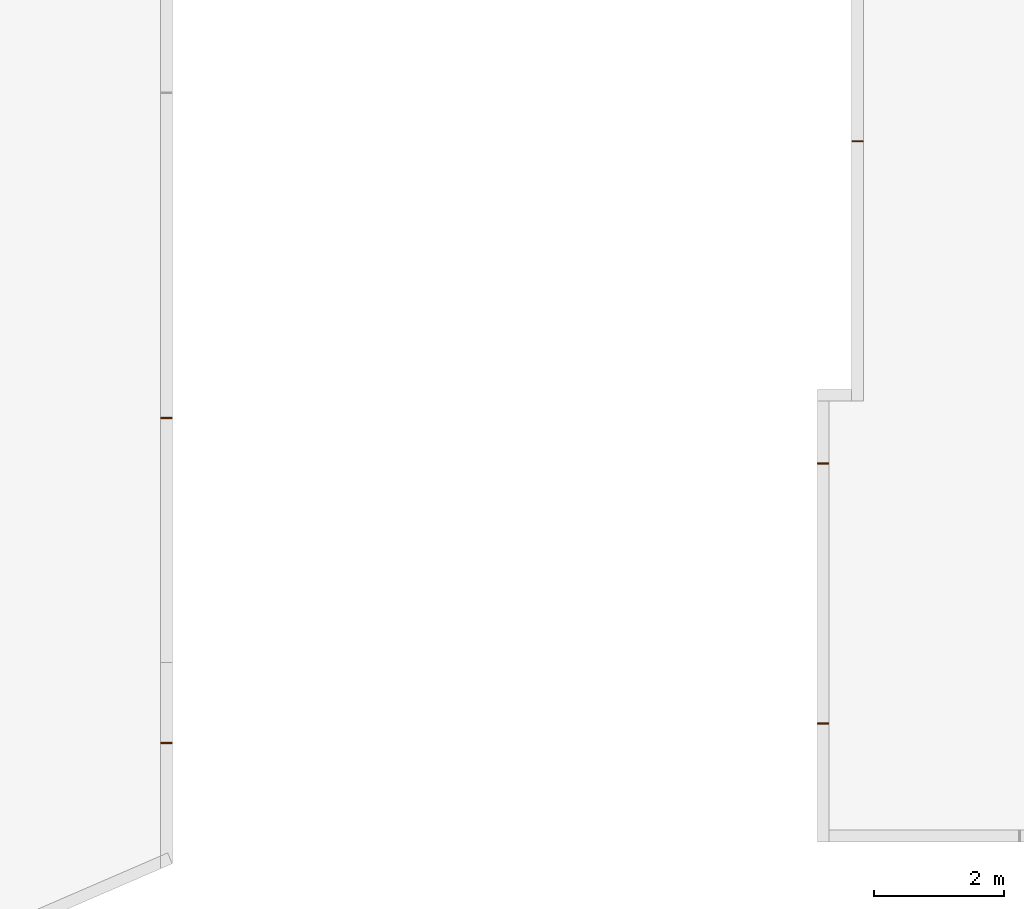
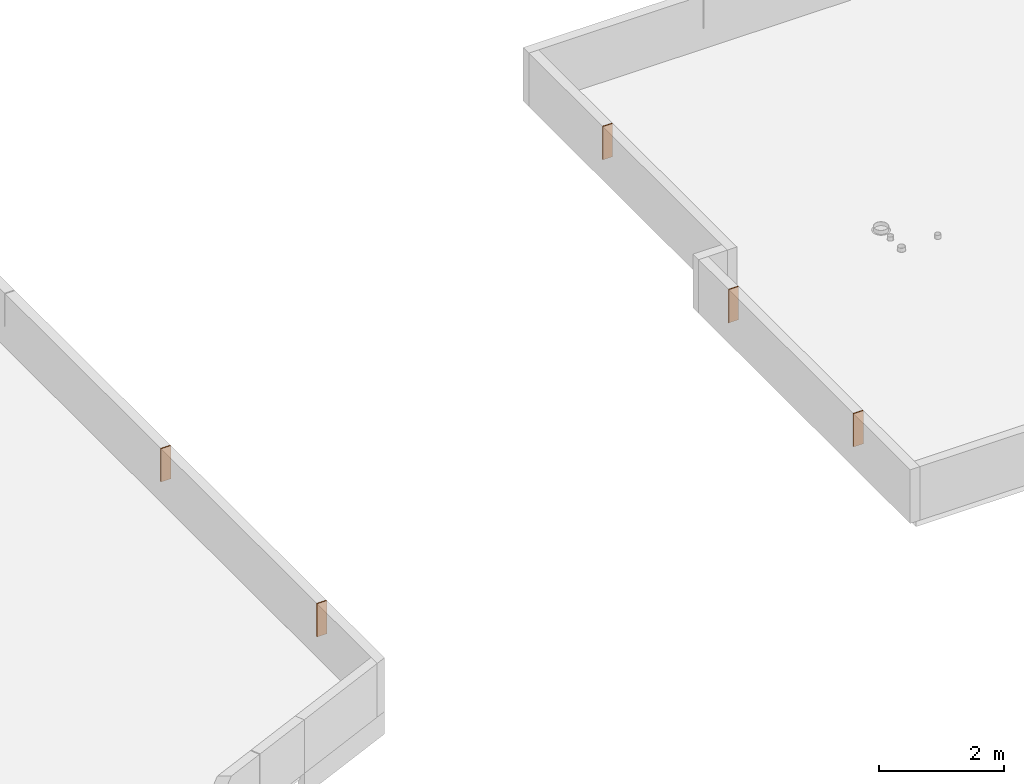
# One storey, part 5 of 12: 5 proxies.
"""IFC2X3 building model written with IfcOpenShell, lengths in centimetres."""

from ifc_helpers import new_model, entity, si_unit, converted_unit, derived_unit, direction, frame, frame_2d, origin, place, context, subcontext, project, spatial, rectangle, extrude, source, transform, mapped, material, type_object, type_shapes, element, save


model = new_model("IFC2X3")

# Units and contexts
model_context = context("Model", 3, precision=0.001, world=origin(), true_north=direction((6.12303176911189e-17, 1.0)))
body_context = subcontext(model_context, "Body", "Model", "MODEL_VIEW")
ifc_project = project(units=[si_unit("LENGTHUNIT", "METRE", prefix="CENTI"), si_unit("AREAUNIT", "SQUARE_METRE"), si_unit("VOLUMEUNIT", "CUBIC_METRE"), converted_unit("PLANEANGLEUNIT", "DEGREE", entity("IfcRatioMeasure", 0.0174532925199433), si_unit("PLANEANGLEUNIT", "RADIAN"), dimensions=[0, 0, 0, 0, 0, 0, 0]), si_unit("MASSUNIT", "GRAM", prefix="KILO"), derived_unit("MASSDENSITYUNIT", [(si_unit("MASSUNIT", "GRAM", prefix="KILO"), 1), (si_unit("LENGTHUNIT", "METRE"), -3)]), si_unit("TIMEUNIT", "SECOND"), si_unit("FREQUENCYUNIT", "HERTZ"), si_unit("THERMODYNAMICTEMPERATUREUNIT", "DEGREE_CELSIUS"), derived_unit("THERMALTRANSMITTANCEUNIT", [(si_unit("MASSUNIT", "GRAM", prefix="KILO"), 1), (si_unit("THERMODYNAMICTEMPERATUREUNIT", "KELVIN"), -1), (si_unit("TIMEUNIT", "SECOND"), -3)]), derived_unit("VOLUMETRICFLOWRATEUNIT", [(si_unit("LENGTHUNIT", "METRE"), 3), (si_unit("TIMEUNIT", "SECOND"), -1)]), si_unit("ELECTRICCURRENTUNIT", "AMPERE"), si_unit("ELECTRICVOLTAGEUNIT", "VOLT"), si_unit("POWERUNIT", "WATT"), si_unit("FORCEUNIT", "NEWTON"), si_unit("ILLUMINANCEUNIT", "LUX"), si_unit("LUMINOUSFLUXUNIT", "LUMEN"), si_unit("LUMINOUSINTENSITYUNIT", "CANDELA"), derived_unit("USERDEFINED", [(si_unit("MASSUNIT", "GRAM", prefix="KILO"), -1), (si_unit("LENGTHUNIT", "METRE"), -2), (si_unit("TIMEUNIT", "SECOND"), 3), (si_unit("LUMINOUSFLUXUNIT", "LUMEN"), 1)]), derived_unit("LINEARVELOCITYUNIT", [(si_unit("LENGTHUNIT", "METRE"), 1), (si_unit("TIMEUNIT", "SECOND"), -1)]), si_unit("PRESSUREUNIT", "PASCAL"), derived_unit("USERDEFINED", [(si_unit("LENGTHUNIT", "METRE"), -2), (si_unit("MASSUNIT", "GRAM", prefix="KILO"), 1), (si_unit("TIMEUNIT", "SECOND"), -2)])], contexts=[model_context])

# Site, building, storey
site_placement = place(None, origin())
site = spatial("IfcSite", under=ifc_project, at=site_placement, Name="Default", CompositionType="ELEMENT")
building_placement = place(site_placement, origin())
building = spatial("IfcBuilding", under=site, at=building_placement, Name="CAGE 03", CompositionType="ELEMENT")
storey_placement = place(building_placement, frame((0.0, 0.0, 1690.0)))
storey = spatial("IfcBuildingStorey", under=building, at=storey_placement, Name="R+6", CompositionType="ELEMENT", Elevation=1690.0)

# Proxies
ifc_material = material(Name="BBGO_Résa")
building_element_proxy_type_1 = type_object("IfcBuildingElementProxyType", Name="J.F.", PredefinedType="NOTDEFINED", material=ifc_material)
shared_shape_1 = source(origin(), body_context, "Body", "SweptSolid", [
    extrude(rectangle(XDim=17.9999999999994, YDim=2.00000000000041, at=frame_2d((4.33431068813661e-13, -4.33209024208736e-13), x_axis=(1.0, 0.0))), frame((4869.36582014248, 4448.66066607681, 1730.0)), (0.0, 0.0, 1.0), 64.9999999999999),
])
type_shapes(building_element_proxy_type_1, [shared_shape_1])
proxy_1_placement = place(storey_placement, frame((0.0, 0.0, -1690.0)))
element("IfcBuildingElementProxy", 1, at=proxy_1_placement, inside=storey, type_object=building_element_proxy_type_1, material=ifc_material, Name="BBGO-Résa rect et circ:J.F.", ObjectType="J.F.", context=body_context, shape_type="MappedRepresentation", body=[
    mapped(shared_shape_1, transform((0.0, 0.0, 0.0), scale=1.0)),
])
building_element_proxy_type_2 = type_object("IfcBuildingElementProxyType", Name="J.F.", PredefinedType="NOTDEFINED", material=ifc_material)
shared_shape_2 = source(origin(), body_context, "Body", "SweptSolid", [
    extrude(rectangle(XDim=17.9999999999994, YDim=2.00000000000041, at=frame_2d((4.33431068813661e-13, -4.33209024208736e-13), x_axis=(1.0, 0.0))), frame((4869.36582014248, 3948.66066607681, 1730.0)), (0.0, 0.0, 1.0), 64.9999999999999),
])
type_shapes(building_element_proxy_type_2, [shared_shape_2])
proxy_2_placement = place(storey_placement, frame((0.0, 0.0, -1690.0)))
element("IfcBuildingElementProxy", 2, at=proxy_2_placement, inside=storey, type_object=building_element_proxy_type_2, material=ifc_material, Name="BBGO-Résa rect et circ:J.F.", ObjectType="J.F.", context=body_context, shape_type="MappedRepresentation", body=[
    mapped(shared_shape_2, transform((0.0, 0.0, 0.0), scale=1.0)),
])
building_element_proxy_type_3 = type_object("IfcBuildingElementProxyType", Name="J.F.", PredefinedType="NOTDEFINED", material=ifc_material)
shared_shape_3 = source(origin(), body_context, "Body", "SweptSolid", [
    extrude(rectangle(XDim=17.9999999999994, YDim=2.00000000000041, at=frame_2d((-4.33431068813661e-13, 4.33209024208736e-13), x_axis=(1.0, 0.0))), frame((5932.36582014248, 4874.16066607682, 1730.0)), (0.0, 0.0, 1.0), 64.9999999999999),
])
type_shapes(building_element_proxy_type_3, [shared_shape_3])
proxy_3_placement = place(storey_placement, frame((0.0, 0.0, -1690.0)))
element("IfcBuildingElementProxy", 3, at=proxy_3_placement, inside=storey, type_object=building_element_proxy_type_3, material=ifc_material, Name="BBGO-Résa rect et circ:J.F.", ObjectType="J.F.", context=body_context, shape_type="MappedRepresentation", body=[
    mapped(shared_shape_3, transform((0.0, 0.0, 0.0), scale=1.0)),
])
building_element_proxy_type_4 = type_object("IfcBuildingElementProxyType", Name="J.F.", PredefinedType="NOTDEFINED", material=ifc_material)
shared_shape_4 = source(origin(), body_context, "Body", "SweptSolid", [
    extrude(rectangle(XDim=17.9999999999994, YDim=2.00000000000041, at=frame_2d((4.33431068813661e-13, -4.33209024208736e-13), x_axis=(1.0, 0.0))), frame((5879.36582014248, 4378.6606660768, 1730.0)), (0.0, 0.0, 1.0), 64.9999999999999),
])
type_shapes(building_element_proxy_type_4, [shared_shape_4])
proxy_4_placement = place(storey_placement, frame((0.0, 0.0, -1690.0)))
element("IfcBuildingElementProxy", 4, at=proxy_4_placement, inside=storey, type_object=building_element_proxy_type_4, material=ifc_material, Name="BBGO-Résa rect et circ:J.F.", ObjectType="J.F.", context=body_context, shape_type="MappedRepresentation", body=[
    mapped(shared_shape_4, transform((0.0, 0.0, 0.0), scale=1.0)),
])
building_element_proxy_type_5 = type_object("IfcBuildingElementProxyType", Name="J.F.", PredefinedType="NOTDEFINED", material=ifc_material)
shared_shape_5 = source(origin(), body_context, "Body", "SweptSolid", [
    extrude(rectangle(XDim=17.9999999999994, YDim=2.00000000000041, at=frame_2d((4.33431068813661e-13, 4.33209024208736e-13), x_axis=(1.0, 0.0))), frame((5879.36582014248, 3978.66066607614, 1730.0)), (0.0, 0.0, 1.0), 64.9999999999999),
])
type_shapes(building_element_proxy_type_5, [shared_shape_5])
proxy_5_placement = place(storey_placement, frame((0.0, 0.0, -1690.0)))
element("IfcBuildingElementProxy", 5, at=proxy_5_placement, inside=storey, type_object=building_element_proxy_type_5, material=ifc_material, Name="BBGO-Résa rect et circ:J.F.", ObjectType="J.F.", context=body_context, shape_type="MappedRepresentation", body=[
    mapped(shared_shape_5, transform((0.0, 0.0, 0.0), scale=1.0)),
])

save(model, "model.ifc")
